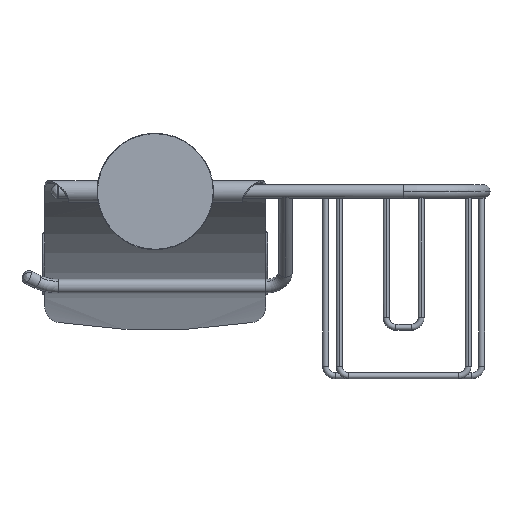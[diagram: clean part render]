
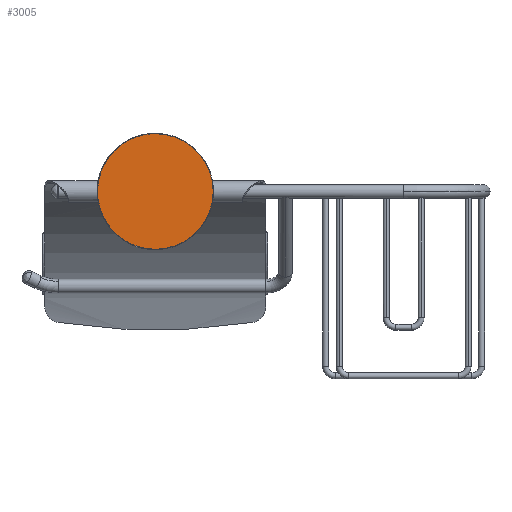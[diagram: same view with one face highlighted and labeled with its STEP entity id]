
A CAD part, front view. The second image highlights one B-rep face of the part: STEP entity #3005.
In plain terms, the highlighted planar face has unit normal (0, -1, 0).
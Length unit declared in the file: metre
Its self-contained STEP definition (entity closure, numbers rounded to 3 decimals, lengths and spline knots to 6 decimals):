
#20=EDGE_CURVE('',#21,#23,#25,.F.);
#21=VERTEX_POINT('',#22);
#22=CARTESIAN_POINT('',(0.0,-0.014,-0.0298));
#23=VERTEX_POINT('',#24);
#24=CARTESIAN_POINT('',(0.0,-0.014,0.0298));
#25=CIRCLE('',#26,0.0298);
#26=AXIS2_PLACEMENT_3D('',#27,#28,#29);
#27=CARTESIAN_POINT('',(0.0,-0.014,0.0));
#28=DIRECTION('',(0.0,1.0,0.0));
#29=DIRECTION('',(0.0,0.0,1.0));
#3005=ADVANCED_FACE('',(#3011),#3006,.F.);
#3006=PLANE('',#3007);
#3007=AXIS2_PLACEMENT_3D('',#3008,#3009,#3010);
#3008=CARTESIAN_POINT('',(0.0,-0.014,0.03));
#3009=DIRECTION('',(0.0,1.0,0.0));
#3010=DIRECTION('',(0.0,0.0,1.0));
#3011=FACE_OUTER_BOUND('',#3012,.T.);
#3012=EDGE_LOOP('',(#3013,#3021));
#3013=ORIENTED_EDGE('',*,*,#3015,.T.);
#3014=CARTESIAN_POINT('',(0.0,-0.014,-0.0298));
#3015=EDGE_CURVE('',#23,#21,#3016,.F.);
#3016=(B_SPLINE_CURVE(3,(#3014,#3017,#3018,#3019),.UNSPECIFIED.,.F.,.U.)B_SPLINE_CURVE_WITH_KNOTS(
  (4,4),(0.0,1.0),.UNSPECIFIED.)BOUNDED_CURVE()CURVE()GEOMETRIC_REPRESENTATION_ITEM(
  )RATIONAL_B_SPLINE_CURVE((1.0,0.333,0.333,1.0)
  )REPRESENTATION_ITEM(''));
#3017=CARTESIAN_POINT('',(-0.0596,-0.014,-0.0298));
#3018=CARTESIAN_POINT('',(-0.0596,-0.014,0.0298));
#3019=CARTESIAN_POINT('',(0.0,-0.014,0.0298));
#3021=ORIENTED_EDGE('',*,*,#20,.T.);
